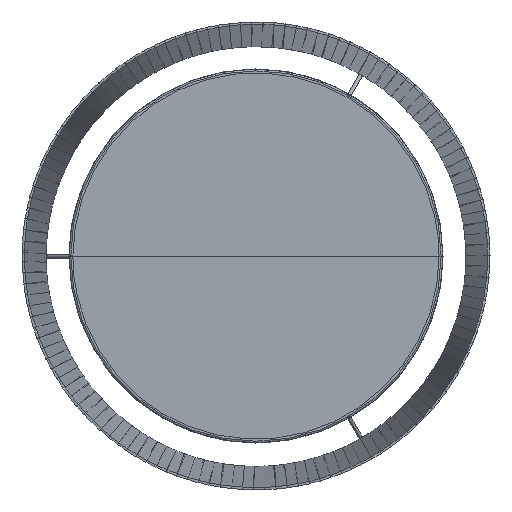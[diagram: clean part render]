
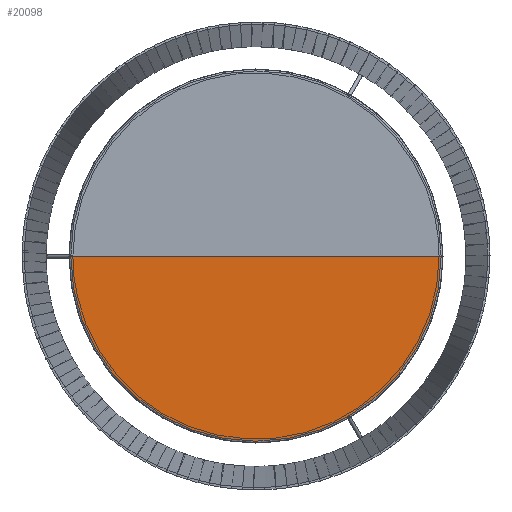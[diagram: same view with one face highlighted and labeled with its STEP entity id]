
A CAD part, top view. The second image highlights one B-rep face of the part: STEP entity #20098.
In plain terms, the highlighted planar face has unit normal (0, 0, 1) as drawn and (0, 0, -1) by its records, which use the part's own axes.
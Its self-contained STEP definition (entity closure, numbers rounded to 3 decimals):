
#1658=FACE_OUTER_BOUND('',#2862,.T.);
#2862=EDGE_LOOP('',(#17715,#17716));
#5380=LINE('',#33977,#7890);
#7890=VECTOR('',#26581,304.8);
#7985=CIRCLE('',#21520,198.182);
#9733=VERTEX_POINT('',#33842);
#9734=VERTEX_POINT('',#33843);
#12397=EDGE_CURVE('',#9734,#9733,#7985,.T.);
#12400=EDGE_CURVE('',#9733,#9734,#5380,.T.);
#17715=ORIENTED_EDGE('',*,*,#12400,.T.);
#17716=ORIENTED_EDGE('',*,*,#12397,.T.);
#18914=PLANE('',#21525);
#20098=ADVANCED_FACE('',(#1658),#18914,.T.);
#21520=AXIS2_PLACEMENT_3D('',#33971,#26570,#26571);
#21525=AXIS2_PLACEMENT_3D('',#33978,#26582,#26583);
#26570=DIRECTION('center_axis',(0.,0.,-1.));
#26571=DIRECTION('ref_axis',(-1.,0.,0.));
#26581=DIRECTION('',(-1.,0.,0.));
#26582=DIRECTION('center_axis',(0.,0.,-1.));
#26583=DIRECTION('ref_axis',(-1.,0.,0.));
#33842=CARTESIAN_POINT('',(198.182,0.,27.771));
#33843=CARTESIAN_POINT('',(-198.182,0.,27.771));
#33971=CARTESIAN_POINT('Origin',(0.,0.,27.771));
#33977=CARTESIAN_POINT('',(198.182,0.,27.771));
#33978=CARTESIAN_POINT('Origin',(0.,0.,27.771));
